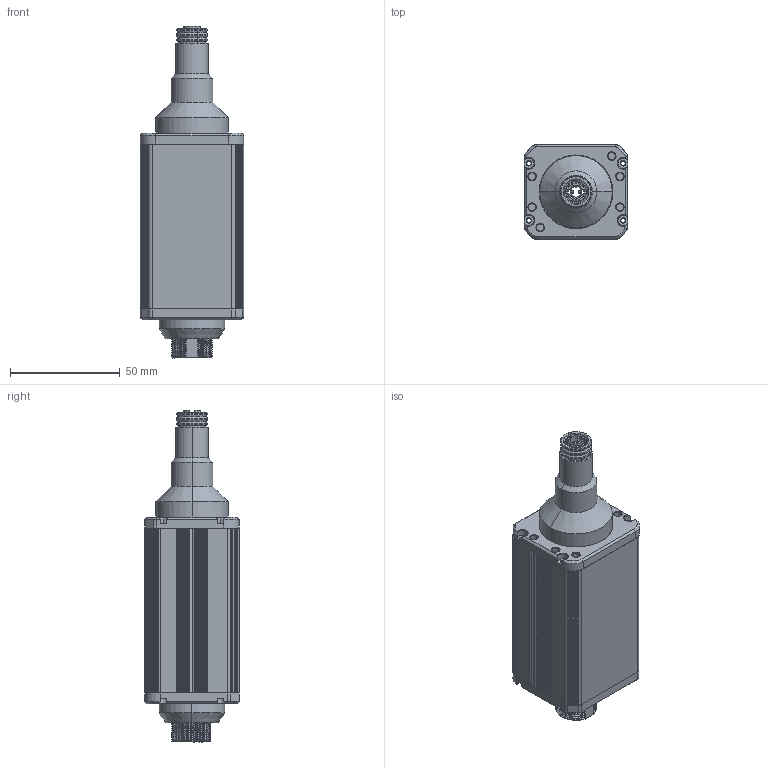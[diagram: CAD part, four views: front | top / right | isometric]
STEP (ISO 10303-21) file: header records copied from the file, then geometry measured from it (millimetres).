
FILE_DESCRIPTION (( 'STEP AP203' ), '1' );
FILE_NAME ('ZEDA-DE-MA5-0050.STEP', '2026-07-17T11:44:33', ( 'Windows User' ), ( 'P R C' ), 'SwSTEP 2.0', 'SolidWorks 2025', '' );
FILE_SCHEMA (( 'CONFIG_CONTROL_DESIGN' ));
Length unit declared in the file: millimetre
Products named in the file (1): ZEDA-DE-MA5-0050
Bounding box: 47 x 43 x 151.15 mm (x, y, z)
Surface area: 28592.3 mm2 (no closed solid volume)
Topology: 0 solids, 19 shells, 483 faces, 1561 edges, 1073 vertices
Faces by surface type: cylinder 264, plane 89, cone 74, bspline 30, torus 26
Entity records: 32084 total; most frequent: CARTESIAN_POINT 18493, DIRECTION 2904, ORIENTED_EDGE 2770, EDGE_CURVE 1561, AXIS2_PLACEMENT_3D 1133, VERTEX_POINT 1073, CIRCLE 679, VECTOR 638
